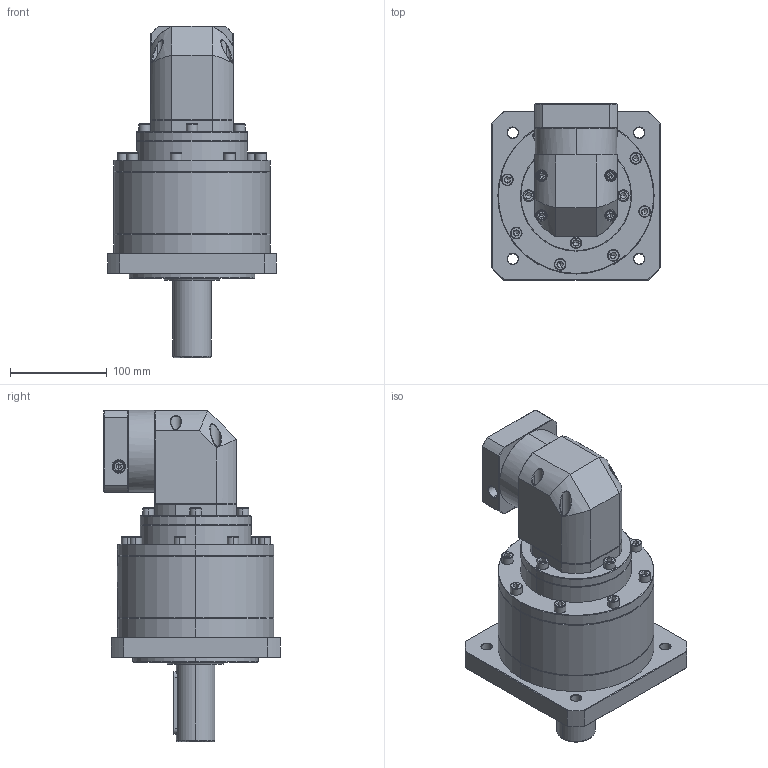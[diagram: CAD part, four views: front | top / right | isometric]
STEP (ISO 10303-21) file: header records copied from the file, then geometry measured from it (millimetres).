
FILE_DESCRIPTION (( 'STEP AP214' ), '1' );
FILE_NAME ('ZFR160A-D40-L3-P2-12.7-73-69.6X69.6-M6.step', '2023-09-03T10:04:12', ( '' ), ( '' ), 'SwSTEP 2.0', 'SolidWorks 2016', '' );
FILE_SCHEMA (( 'AUTOMOTIVE_DESIGN' ));
Length unit declared in the file: millimetre
Products named in the file (1): ZFR160A-D40-L3-P2-12.7-73-69.6X69.6-M6
Bounding box: 175 x 182.6 x 343.2 mm (x, y, z)
Volume: 3982716.9 mm3; surface area: 270776.7 mm2
Topology: 6 solids, 6 shells, 2600 faces, 6771 edges, 4299 vertices
Faces by surface type: plane 1240, cylinder 518, bspline 421, cone 361, torus 60
Entity records: 138831 total; most frequent: CARTESIAN_POINT 51930, ORIENTED_EDGE 13402, DIRECTION 10358, EDGE_CURVE 6701, VERTEX_POINT 4299, VECTOR 3620, LINE 3620, AXIS2_PLACEMENT_3D 3369
